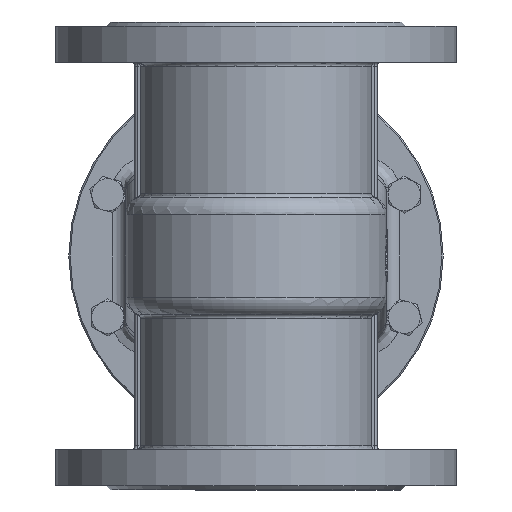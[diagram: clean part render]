
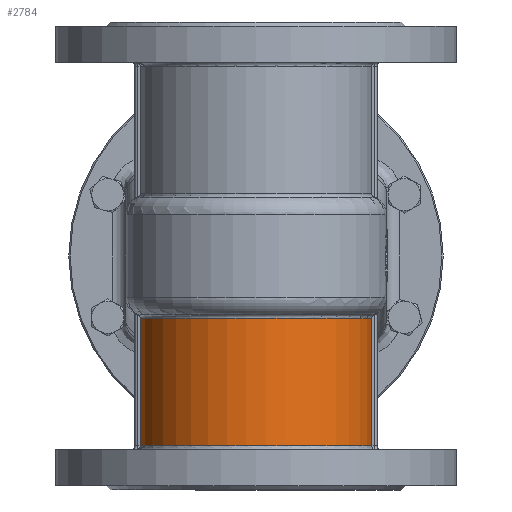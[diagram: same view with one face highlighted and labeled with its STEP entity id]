
A CAD part, front view. The second image highlights one B-rep face of the part: STEP entity #2784.
In plain terms, the highlighted cylindrical face has radius 87.5 mm (diameter 175 mm), a partial arc.
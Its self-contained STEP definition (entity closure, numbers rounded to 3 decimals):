
#2784=ADVANCED_FACE('',(#14865),#14867,.T.);
#14865=FACE_BOUND('',#14866,.T.);
#14866=EDGE_LOOP('',(#25745,#25746,#25747,#25748));
#14867=CYLINDRICAL_SURFACE('',#14868,87.5);
#14868=AXIS2_PLACEMENT_3D('',#14869,#14870,#14871);
#14869=CARTESIAN_POINT('',(0.,0.,-118.));
#14870=DIRECTION('',(0.,0.,1.));
#14871=DIRECTION('',(1.,0.,0.));
#25745=ORIENTED_EDGE('',*,*,#31161,.F.);
#25746=ORIENTED_EDGE('',*,*,#31162,.T.);
#25747=ORIENTED_EDGE('',*,*,#30988,.F.);
#25748=ORIENTED_EDGE('',*,*,#31159,.F.);
#30988=EDGE_CURVE('',#34566,#34568,#34569,.T.);
#31159=EDGE_CURVE('',#34859,#34566,#34862,.T.);
#31161=EDGE_CURVE('',#34864,#34859,#34865,.F.);
#31162=EDGE_CURVE('',#34864,#34568,#34866,.F.);
#34566=VERTEX_POINT('',#45017);
#34568=VERTEX_POINT('',#45096);
#34569=CIRCLE('',#45097,87.5);
#34859=VERTEX_POINT('',#47589);
#34862=LINE('',#47594,#47595);
#34864=VERTEX_POINT('',#47600);
#34865=CIRCLE('',#47601,87.5);
#34866=LINE('',#47605,#47606);
#45017=CARTESIAN_POINT('',(-86.603,-12.5,-46.492));
#45096=CARTESIAN_POINT('',(86.603,-12.5,-46.492));
#45097=AXIS2_PLACEMENT_3D('',#45098,#45099,#45100);
#45098=CARTESIAN_POINT('',(0.,0.,-46.492));
#45099=DIRECTION('',(0.,0.,1.));
#45100=DIRECTION('',(-0.99,-0.143,0.));
#47589=CARTESIAN_POINT('',(-86.603,-12.5,-142.));
#47594=CARTESIAN_POINT('',(-86.603,-12.5,-142.));
#47595=VECTOR('',#47596,1.);
#47596=DIRECTION('',(0.,0.,1.));
#47600=CARTESIAN_POINT('',(86.603,-12.5,-142.));
#47601=AXIS2_PLACEMENT_3D('',#47602,#47603,#47604);
#47602=CARTESIAN_POINT('',(0.,0.,-142.));
#47603=DIRECTION('',(0.,0.,1.));
#47604=DIRECTION('',(-0.99,-0.143,0.));
#47605=CARTESIAN_POINT('',(86.603,-12.5,-46.492));
#47606=VECTOR('',#47607,1.);
#47607=DIRECTION('',(0.,0.,-1.));
